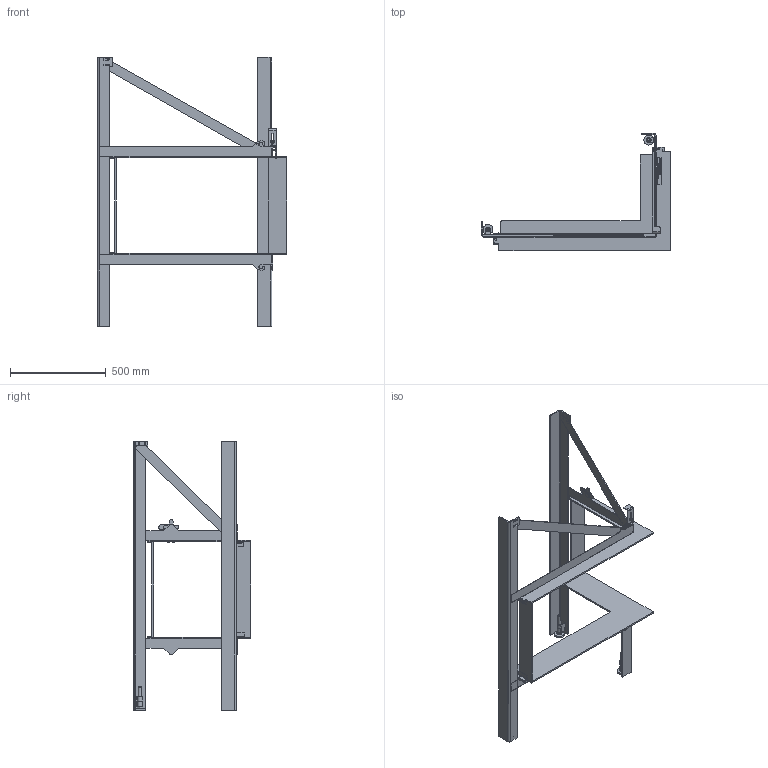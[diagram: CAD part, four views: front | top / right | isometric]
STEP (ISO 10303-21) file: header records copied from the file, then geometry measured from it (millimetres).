
FILE_DESCRIPTION(/* description */ (''),/* implementation_level */ '2;1');
FILE_NAME(/* name */ 'C:\Users\jku\Desktop\Export\RII 50x80x42\Rechts freistehend.stp',/* time_stamp */ '2019-09-30T08:02:05+02:00',/* author */ ('jku'),/* organization */ (''),/* preprocessor_version */ 'ST-DEVELOPER v17.2',/* originating_system */ 'Autodesk Inventor 2019',/* authorisation */ '');
FILE_SCHEMA (('AUTOMOTIVE_DESIGN { 1 0 10303 214 3 1 1 }'));
Length unit declared in the file: millimetre
Products named in the file (1): 2019-02971
Bounding box: 986.4 x 613.5 x 1406 mm (x, y, z)
Volume: 7013223.4 mm3; surface area: 2401642.8 mm2
Topology: 35 solids, 35 shells, 745 faces, 1939 edges, 1275 vertices
Faces by surface type: plane 406, cylinder 287, cone 52
Full cylindrical faces by diameter (mm): 10 x1, 10.21 x2, 16 x4, 17 x3, 20 x2, 24 x3, 25 x2, 30 x3
Entity records: 23563 total; most frequent: CARTESIAN_POINT 4452, DIRECTION 3950, ORIENTED_EDGE 3878, EDGE_CURVE 1939, AXIS2_PLACEMENT_3D 1385, VERTEX_POINT 1275, LINE 1180, VECTOR 1180
